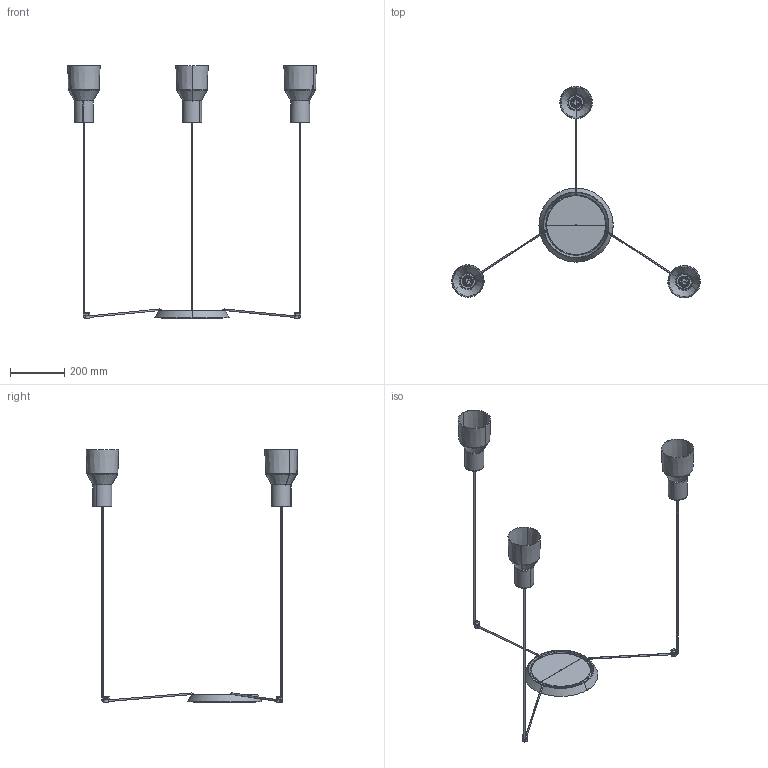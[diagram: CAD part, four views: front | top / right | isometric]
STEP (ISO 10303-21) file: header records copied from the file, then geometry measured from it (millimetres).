
FILE_DESCRIPTION(/* description */ (''),/* implementation_level */ '2;1');
FILE_NAME(/* name */ 'C:\Users\Franco Sartori E\Documents\FARO\DUPLICADO\Modelos\01_Digitalizados\2021\KOMBO\03_Publicación\68591-3L.stp',/* time_stamp */ '2021-02-25T10:41:28+01:00',/* author */ ('Franco Sartori E'),/* organization */ (''),/* preprocessor_version */ 'ST-DEVELOPER v18.1',/* originating_system */ 'AutoCAD Mechanical',/* authorisation */ '');
FILE_SCHEMA (('AUTOMOTIVE_DESIGN { 1 0 10303 214 3 1 1 }'));
Length unit declared in the file: millimetre
Products named in the file (5): Product; CANOPY_3 - 68603-407759-_3D_; KOMBO120FMA - LH-415188-_3D_; KOMBO120FMA - LH-415191-_3D_; KOMBO120FMA - LH-415194-_3D_
Assembly tree (4 placements, depth 2):
  Product
    CANOPY_3 - 68603-407759-_3D_
    KOMBO120FMA - LH-415188-_3D_
    KOMBO120FMA - LH-415191-_3D_
    KOMBO120FMA - LH-415194-_3D_
Bounding box: 915.79 x 779.83 x 929.47 mm (x, y, z)
Volume: 731991.8 mm3; surface area: 1178537.3 mm2
Topology: 41 solids, 41 shells, 859 faces, 2021 edges, 1202 vertices
Faces by surface type: cylinder 309, plane 304, torus 126, cone 120
Entity records: 32634 total; most frequent: CARTESIAN_POINT 13545, ORIENTED_EDGE 4030, DIRECTION 3775, EDGE_CURVE 2015, AXIS2_PLACEMENT_3D 1509, VERTEX_POINT 1202, EDGE_LOOP 929, FACE_OUTER_BOUND 859
